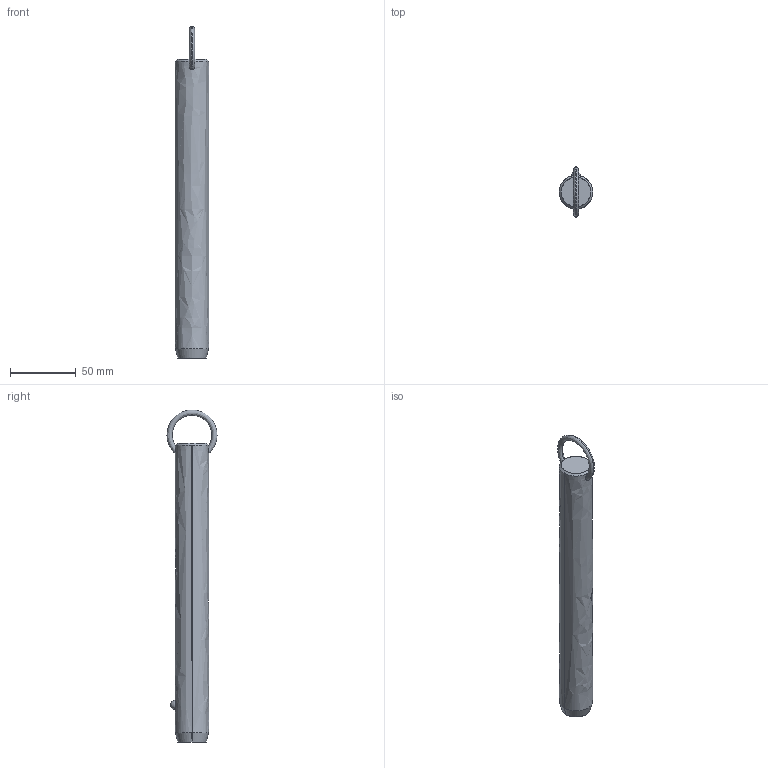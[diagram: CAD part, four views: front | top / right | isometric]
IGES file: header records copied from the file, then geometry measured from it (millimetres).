
Start section: SolidWorks IGES file using analytic representation for surfaces
Global section: file name: C:\Users\liam_\OneDrive\Documents\WORK\Work for WixRoyd\Job Files\J-00019 - Matt Davis CAD Checking\04. CAD Drawings\automotion20190605\P1250.2_v2\P1250.2_v2_20190729_IGES\P1250.100-720.igs; native system: SolidWorks 2017; preprocessor: SolidWorks 2017; author: liam_; date: 190730.174904; units: millimetre
Bounding box: 25.4 x 38.1 x 252.7 mm (x, y, z)
Surface area: 19911.1 mm2 (no closed solid volume)
Topology: 0 solids, 0 shells, 12 faces, 298 edges, 296 vertices
Faces by surface type: revolution 8, bspline 4
